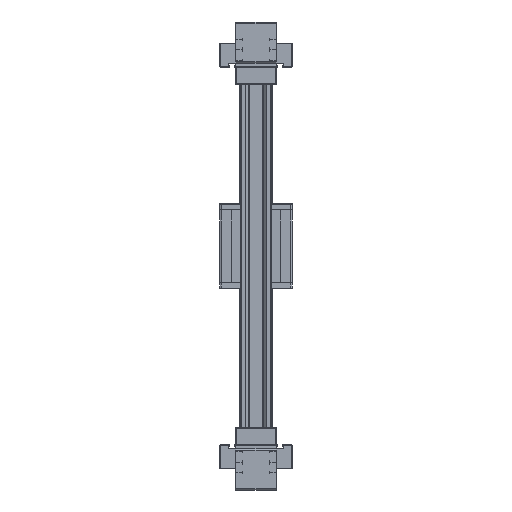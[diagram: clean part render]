
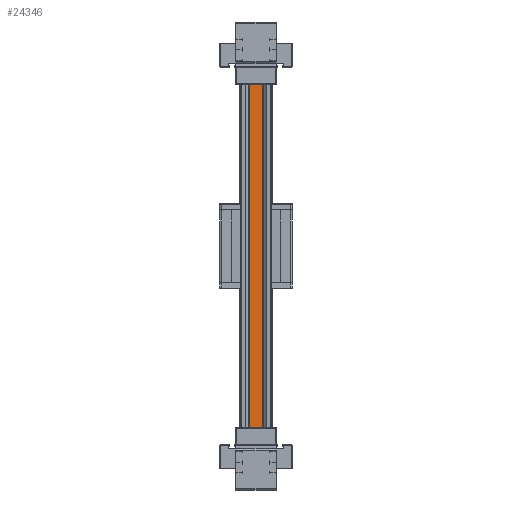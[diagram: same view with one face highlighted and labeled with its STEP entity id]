
A CAD part, front view. The second image highlights one B-rep face of the part: STEP entity #24346.
In plain terms, the highlighted planar face has unit normal (0, -1, 0).
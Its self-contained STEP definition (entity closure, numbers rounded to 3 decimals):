
#2491 = CARTESIAN_POINT ( 'NONE',  ( 0., -6.8, -17.5 ) ) ;
#3383 = CARTESIAN_POINT ( 'NONE',  ( 0., -6.8, -42.5 ) ) ;
#3441 = DIRECTION ( 'NONE',  ( 0., 0., 1. ) ) ;
#3460 = LINE ( 'NONE', #19750, #23104 ) ;
#3579 = FACE_OUTER_BOUND ( 'NONE', #21261, .T. ) ;
#4463 = EDGE_CURVE ( 'NONE', #21217, #24004, #22896, .T. ) ;
#4647 = ORIENTED_EDGE ( 'NONE', *, *, #13588, .T. ) ;
#5434 = VERTEX_POINT ( 'NONE', #3383 ) ;
#6110 = EDGE_CURVE ( 'NONE', #5434, #24004, #3460, .T. ) ;
#6170 = DIRECTION ( 'NONE',  ( -1., 0., 0. ) ) ;
#6446 = ORIENTED_EDGE ( 'NONE', *, *, #10185, .F. ) ;
#7430 = DIRECTION ( 'NONE',  ( -1., 0., 0. ) ) ;
#8772 = CARTESIAN_POINT ( 'NONE',  ( 680., -6.8, -42.5 ) ) ;
#9080 = VERTEX_POINT ( 'NONE', #8772 ) ;
#10090 = CARTESIAN_POINT ( 'NONE',  ( 705.287, -6.8, -17.5 ) ) ;
#10185 = EDGE_CURVE ( 'NONE', #9080, #5434, #16431, .T. ) ;
#12005 = DIRECTION ( 'NONE',  ( 0., 0., 1. ) ) ;
#12152 = DIRECTION ( 'NONE',  ( 0., 0., -1. ) ) ;
#12314 = CARTESIAN_POINT ( 'NONE',  ( 705.287, -6.8, -17.5 ) ) ;
#13588 = EDGE_CURVE ( 'NONE', #9080, #21217, #15614, .T. ) ;
#15614 = LINE ( 'NONE', #26099, #25757 ) ;
#16431 = LINE ( 'NONE', #17573, #21147 ) ;
#17531 = VECTOR ( 'NONE', #6170, 1000. ) ;
#17573 = CARTESIAN_POINT ( 'NONE',  ( 705.287, -6.8, -42.5 ) ) ;
#19750 = CARTESIAN_POINT ( 'NONE',  ( 0., -6.8, -17.5 ) ) ;
#20400 = AXIS2_PLACEMENT_3D ( 'NONE', #10090, #24301, #12152 ) ;
#21147 = VECTOR ( 'NONE', #7430, 1000. ) ;
#21217 = VERTEX_POINT ( 'NONE', #23190 ) ;
#21261 = EDGE_LOOP ( 'NONE', ( #6446, #4647, #26168, #25276 ) ) ;
#22896 = LINE ( 'NONE', #12314, #17531 ) ;
#23104 = VECTOR ( 'NONE', #3441, 1000. ) ;
#23190 = CARTESIAN_POINT ( 'NONE',  ( 680., -6.8, -17.5 ) ) ;
#24004 = VERTEX_POINT ( 'NONE', #2491 ) ;
#24301 = DIRECTION ( 'NONE',  ( 0., -1., 0. ) ) ;
#24346 = ADVANCED_FACE ( 'NONE', ( #3579 ), #26235, .T. ) ;
#25276 = ORIENTED_EDGE ( 'NONE', *, *, #6110, .F. ) ;
#25757 = VECTOR ( 'NONE', #12005, 1000. ) ;
#26099 = CARTESIAN_POINT ( 'NONE',  ( 680., -6.8, -17.5 ) ) ;
#26168 = ORIENTED_EDGE ( 'NONE', *, *, #4463, .T. ) ;
#26235 = PLANE ( 'NONE',  #20400 ) ;
